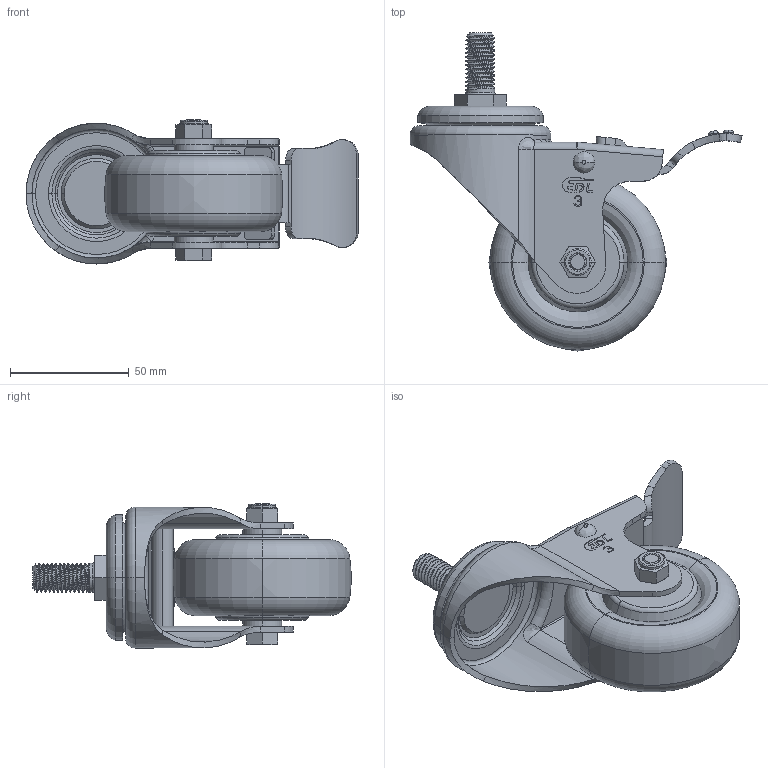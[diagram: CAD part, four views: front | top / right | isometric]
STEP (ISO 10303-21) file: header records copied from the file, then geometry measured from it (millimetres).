
FILE_DESCRIPTION((''),'2;1');
FILE_NAME('S54743L_ASM','2021-08-10T',('lenovo'),(''),'PRO/ENGINEER BY PARAMETRIC TECHNOLOGY CORPORATION, 2010280','PRO/ENGINEER BY PARAMETRIC TECHNOLOGY CORPORATION, 2010280','');
FILE_SCHEMA(('CONFIG_CONTROL_DESIGN'));
Length unit declared in the file: millimetre
Products named in the file (7): S543-12; S540-23; 503-986; S540-33; S540-34; S540-14; S54743L_ASM
Assembly tree (6 placements, depth 2):
  S54743L_ASM
    S543-12
    S540-23
    503-986
    S540-33
    S540-34
    S540-14
Bounding box: 139.79 x 133.93 x 60.65 mm (x, y, z)
Volume: 193536.6 mm3; surface area: 57026.7 mm2
Topology: 10 solids, 10 shells, 432 faces, 1053 edges, 656 vertices
Faces by surface type: plane 200, cylinder 115, bspline 45, cone 38, torus 30, sphere 4
Entity records: 18501 total; most frequent: CARTESIAN_POINT 8458, ORIENTED_EDGE 2106, DIRECTION 1971, EDGE_CURVE 1053, AXIS2_PLACEMENT_3D 687, VERTEX_POINT 656, VECTOR 597, LINE 597
